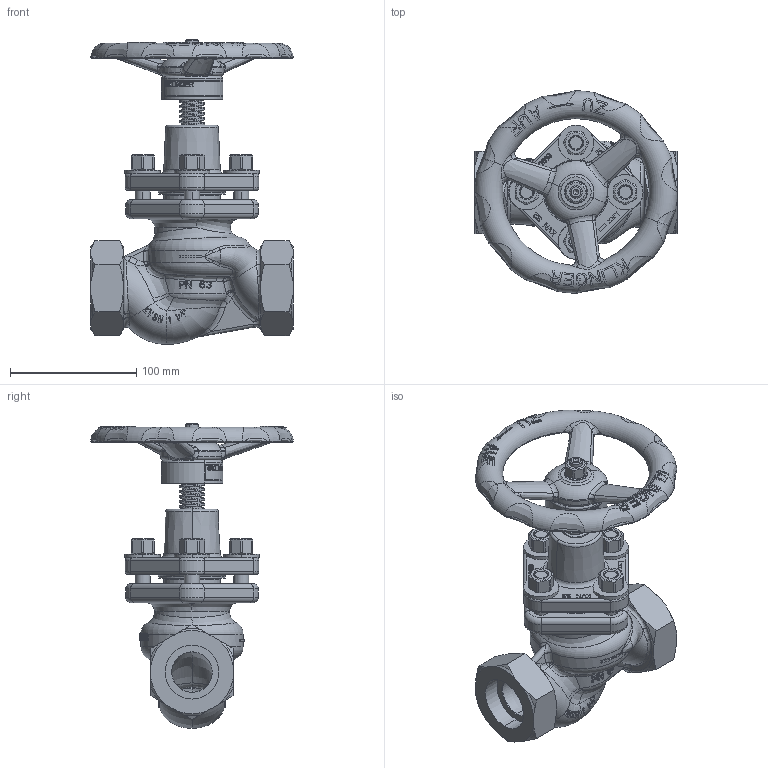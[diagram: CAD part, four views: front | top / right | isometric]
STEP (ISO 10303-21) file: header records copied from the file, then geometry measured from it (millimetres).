
FILE_DESCRIPTION((''),'2;1');
FILE_NAME('KVSN-S54S-----P063PGG_SW0001','2018-12-12T11:39:30',('jeitlers'),('KLINGER'),'CREO PARAMETRIC BY PTC INC, 2018190','CREO PARAMETRIC BY PTC INC, 2018190','');
FILE_SCHEMA(('AUTOMOTIVE_DESIGN { 1 0 10303 214 1 1 1 1 }'));
Products named in the file (1): KVSN-S54S-----P063PGG_SW0001
Bounding box: 160 x 160 x 241.1 mm (x, y, z)
Volume: 749146.7 mm3; surface area: 202483.1 mm2
Topology: 3 solids, 15 shells, 2945 faces, 7862 edges, 5033 vertices
Faces by surface type: plane 1802, bspline 421, cylinder 340, torus 232, cone 136, extrusion 12, sphere 2
Entity records: 175833 total; most frequent: CARTESIAN_POINT 107811, ORIENTED_EDGE 15716, DIRECTION 11508, EDGE_CURVE 7858, VERTEX_POINT 5033, AXIS2_PLACEMENT_3D 3995, VECTOR 3515, LINE 3503
